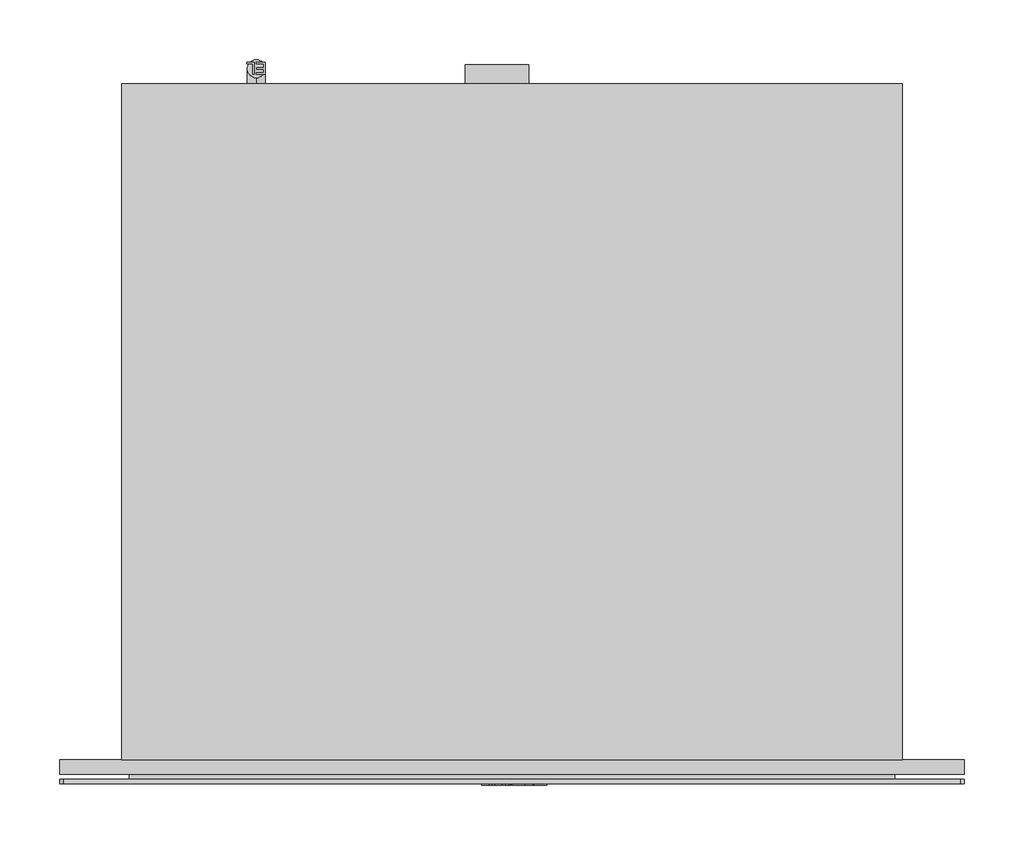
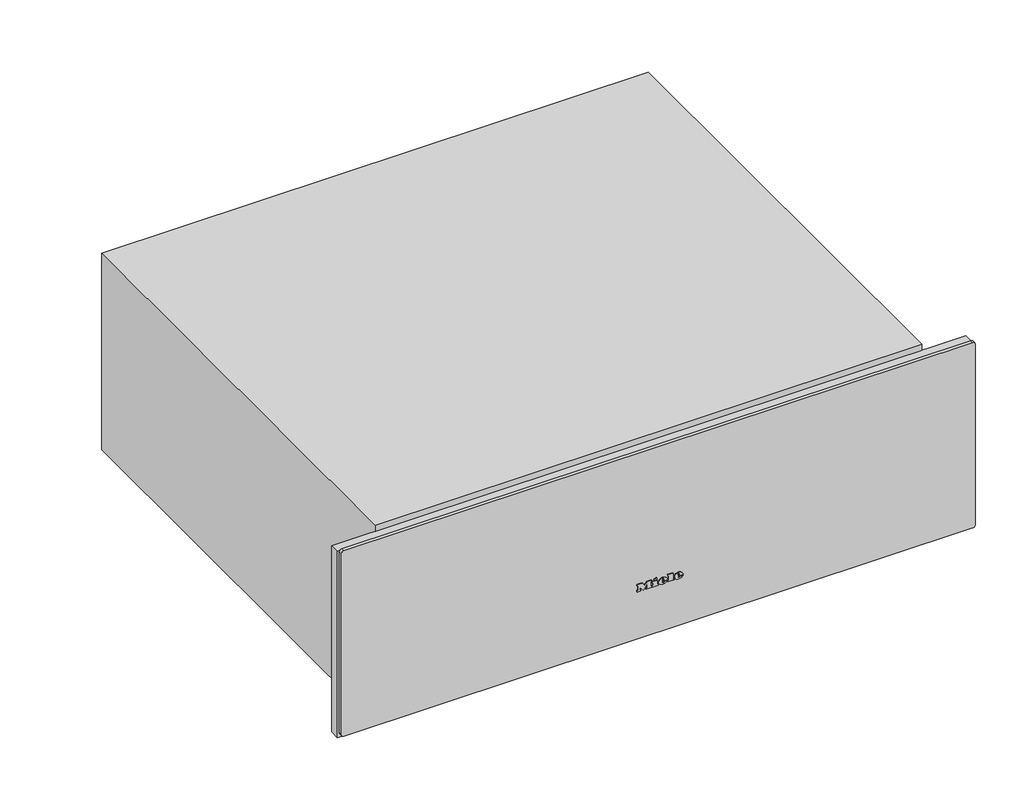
# Not in any storey: 1 proxy.
"""IFC4 building model written with IfcOpenShell, lengths in millimetres."""

from ifc_helpers import new_model, si_unit, origin, place, context, project, spatial, transform, mapped, element, save
from components import specialty_equipment_59f16601

model = new_model("IFC4")

# Units and contexts
model_context = context("Model", 3, world=origin())
ifc_project = project(units=[si_unit("LENGTHUNIT", "METRE", prefix="MILLI")], contexts=[model_context])

# Site, building
site = spatial("IfcSite", under=ifc_project)
building = spatial("IfcBuilding", under=site)

# Proxy
placement = place(None, origin())
specialty_equipment_shape = specialty_equipment_59f16601(model_context)
element("IfcBuildingElementProxy", 1, Name="12423610_USA_EVS7670_OBSWMATT : 30767051_USA_12423610_EVS7670_OBSWMATT", ObjectType="12423610_USA_EVS7670_OBSWMATT : 30767051_USA_12423610_EVS7670_OBSWMATT", at=placement, inside=building, context=model_context, shape_type="MappedRepresentation", body=[
    mapped(specialty_equipment_shape, transform((0.0, 0.0, 0.0), x_axis=(1.0, 0.0, 0.0), y_axis=(0.0, 1.0, 0.0), z_axis=(0.0, 0.0, 1.0))),
])

save(model, "model.ifc")
